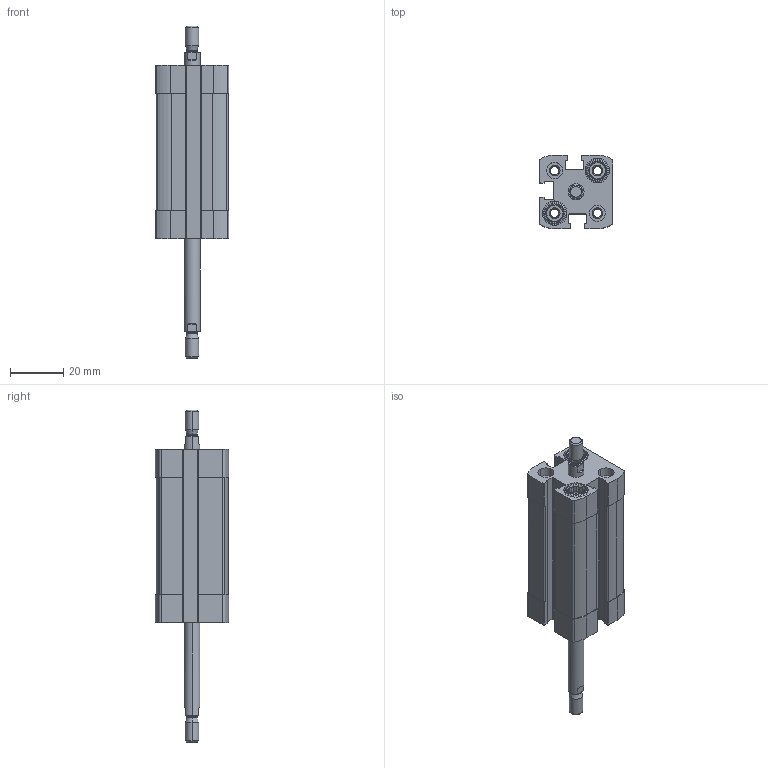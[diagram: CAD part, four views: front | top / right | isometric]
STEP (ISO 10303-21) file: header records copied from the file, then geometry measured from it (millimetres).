
FILE_DESCRIPTION (( 'STEP AP203' ), '1' );
FILE_NAME ('CCN12-30-P.STEP', '2020-06-22T18:34:57', ( '' ), ( '' ), 'SwSTEP 2.0', 'SolidWorks 2019', '' );
FILE_SCHEMA (( 'CONFIG_CONTROL_DESIGN' ));
Length unit declared in the file: millimetre
Products named in the file (1): CCN12-30-P
Bounding box: 27.5 x 27.5 x 124.5 mm (x, y, z)
Volume: 35725.9 mm3; surface area: 19426.9 mm2
Topology: 2 solids, 2 shells, 384 faces, 976 edges, 632 vertices
Faces by surface type: plane 192, cylinder 140, cone 44, torus 8
Entity records: 11783 total; most frequent: CARTESIAN_POINT 2293, DIRECTION 1986, ORIENTED_EDGE 1952, EDGE_CURVE 976, AXIS2_PLACEMENT_3D 725, VERTEX_POINT 632, VECTOR 536, LINE 536
